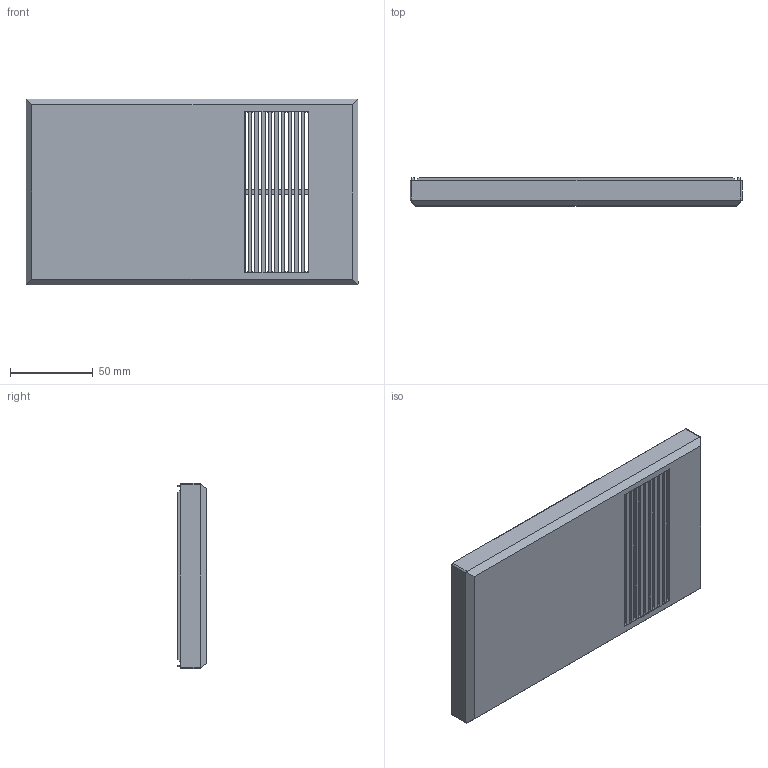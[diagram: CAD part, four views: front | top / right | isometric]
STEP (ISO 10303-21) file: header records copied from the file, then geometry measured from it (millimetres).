
FILE_DESCRIPTION (( 'STEP AP214' ), '1' );
FILE_NAME ('Tapa PP60A.STEP', '2016-10-09T14:15:00', ( 'aaa' ), ( '' ), 'SwSTEP 2.0', 'SolidWorks 2013', '' );
FILE_SCHEMA (( 'AUTOMOTIVE_DESIGN' ));
Length unit declared in the file: millimetre
Products named in the file (1): Tapa PP60A
Bounding box: 200 x 17 x 112 mm (x, y, z)
Volume: 95482.1 mm3; surface area: 66658.1 mm2
Topology: 1 solids, 1 shells, 167 faces, 466 edges, 296 vertices
Faces by surface type: plane 97, cylinder 70
Entity records: 5438 total; most frequent: CARTESIAN_POINT 954, ORIENTED_EDGE 932, DIRECTION 930, EDGE_CURVE 466, VECTOR 322, LINE 322, AXIS2_PLACEMENT_3D 304, VERTEX_POINT 296
